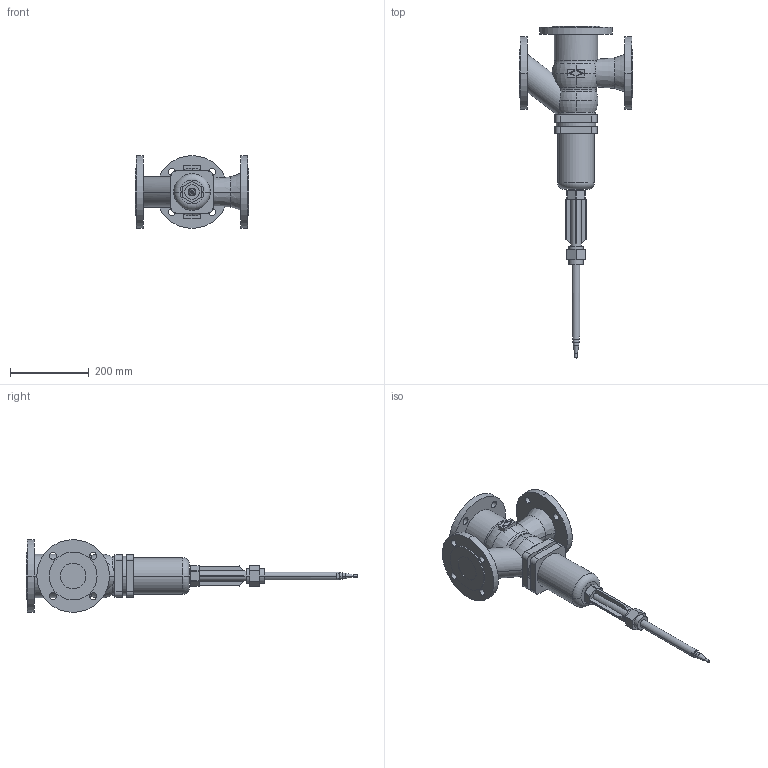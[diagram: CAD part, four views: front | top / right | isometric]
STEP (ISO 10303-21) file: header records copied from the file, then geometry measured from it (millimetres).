
FILE_DESCRIPTION(('CoCreate Modeling STEP Export'),'2;1');
FILE_NAME('c000004790.stp','2011-09-23T10:21:45',(''),(''),'CoCreate Modeling STEP processor for AP214 (Solid Model)','CoCreate Modeling 17.0 01-Apr-2010 (C) Parametric Technology GmbH','');
FILE_SCHEMA(('AUTOMOTIVE_DESIGN { 1 0 10303 214 1 1 1 1 }'));
Length unit declared in the file: millimetre
Products named in the file (1): 1
Bounding box: 290 x 845.44 x 185 mm (x, y, z)
Volume: 5958998.8 mm3; surface area: 413093.1 mm2
Topology: 1 solids, 1 shells, 206 faces, 518 edges, 336 vertices
Faces by surface type: plane 88, cylinder 86, torus 20, cone 12
Entity records: 7304 total; most frequent: CARTESIAN_POINT 1119, ORIENTED_EDGE 1036, DIRECTION 828, EDGE_CURVE 518, VERTEX_POINT 336, AXIS2_PLACEMENT_3D 293, EDGE_LOOP 252, VECTOR 242
